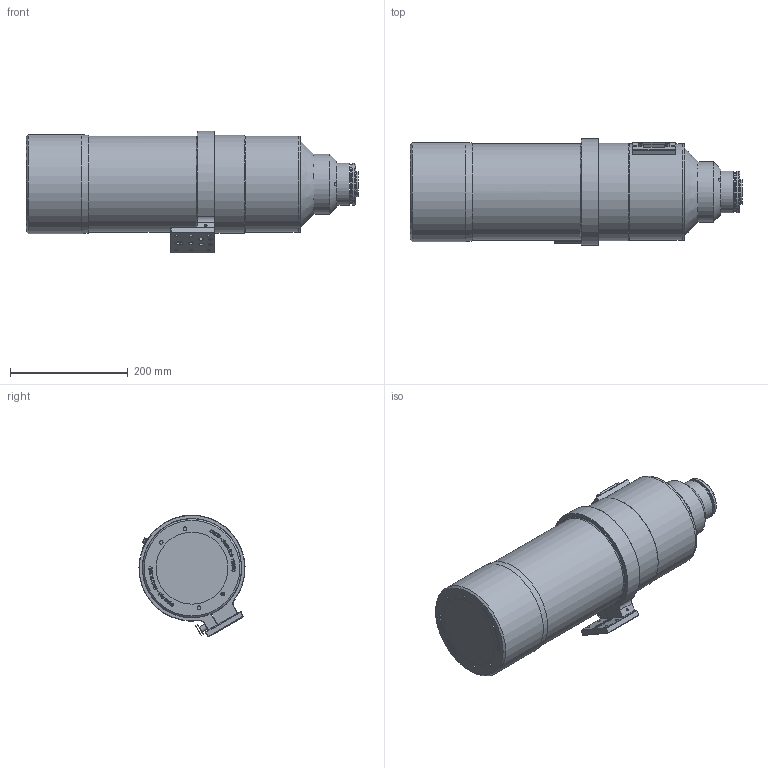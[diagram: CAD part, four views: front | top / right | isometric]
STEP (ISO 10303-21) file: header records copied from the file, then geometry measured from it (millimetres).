
FILE_DESCRIPTION((''),'2;1');
FILE_NAME('C:\Documents and Settings\tbosotti\Desktop\C0628_017.stp','2014-04-28T12:07:45',('tbosotti'),(''),'Autodesk Inventor 2010','Autodesk Inventor 2010','');
FILE_SCHEMA(('AUTOMOTIVE_DESIGN { 1 0 10303 214 1 1 1 1 }'));
Length unit declared in the file: millimetre
Products named in the file (2): C0628_017_000.iam (Livello di dettaglio sostituto1); C0628_017
Assembly tree (1 placements, depth 2):
  C0628_017_000.iam (Livello di dettaglio sostituto1)
    C0628_017
Bounding box: 563.04 x 179.92 x 206.59 mm (x, y, z)
Surface area: 587825.7 mm2 (no closed solid volume)
Topology: 0 solids, 42 shells, 134 faces, 930 edges, 832 vertices
Faces by surface type: plane 61, bspline 37, cylinder 24, cone 12
Full cylindrical faces by diameter (mm): 4.978 x1, 7.798 x1, 10 x1, 13 x1, 16 x1, 42 x1, 65.5 x1, 71 x2, 97 x1, 102 x1, 158 x1, 163 x3, 166 x1, 168 x1
Entity records: 9930 total; most frequent: CARTESIAN_POINT 3617, ORIENTED_EDGE 960, DIRECTION 901, EDGE_CURVE 851, VERTEX_POINT 814, VECTOR 371, LINE 371, EDGE_LOOP 307
